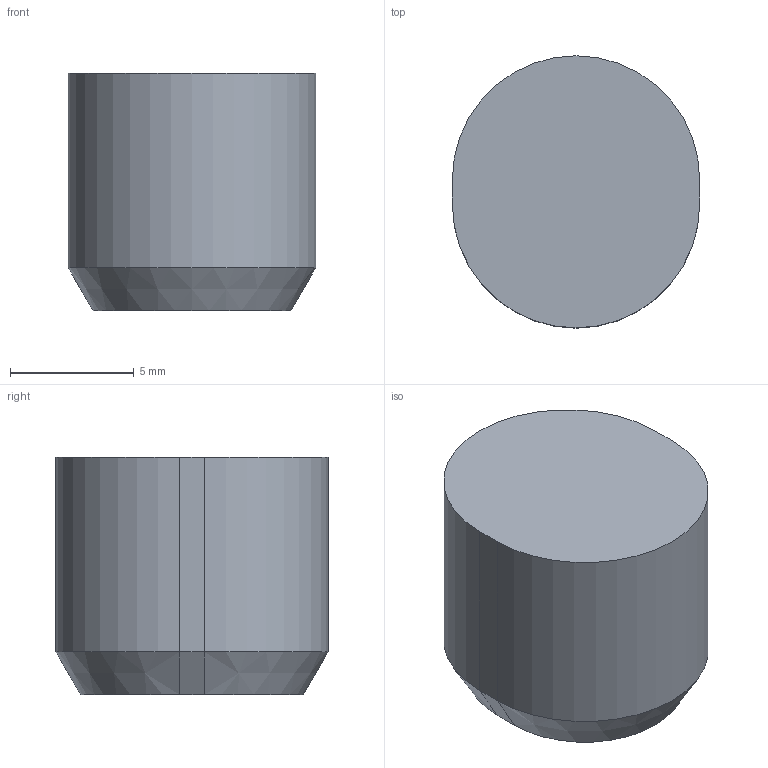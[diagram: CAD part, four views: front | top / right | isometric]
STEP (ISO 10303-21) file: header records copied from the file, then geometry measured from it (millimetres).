
FILE_DESCRIPTION(/* description */ ('Slot Bushing'),/* implementation_level */ '2;1');
FILE_NAME(/* name */ 'ITPTv2.02.00.09.stp',/* time_stamp */ '2025-02-12T11:25:30+01:00',/* author */ ('Rüdiger Widera'),/* organization */ (''),/* preprocessor_version */ 'ST-DEVELOPER v19.2',/* originating_system */ 'Autodesk Inventor 2024',/* authorisation */ '');
FILE_SCHEMA (('AUTOMOTIVE_DESIGN { 1 0 10303 214 3 1 1 }'));
Length unit declared in the file: millimetre
Products named in the file (1): ITPTv2.02.00.09
Bounding box: 10 x 11 x 9.6 mm (x, y, z)
Volume: 822.9 mm3; surface area: 470.3 mm2
Topology: 1 solids, 1 shells, 10 faces, 20 edges, 12 vertices
Faces by surface type: plane 6, cone 2, cylinder 2
Entity records: 301 total; most frequent: DIRECTION 48, CARTESIAN_POINT 43, ORIENTED_EDGE 40, EDGE_CURVE 20, AXIS2_PLACEMENT_3D 17, LINE 14, VECTOR 14, VERTEX_POINT 12
